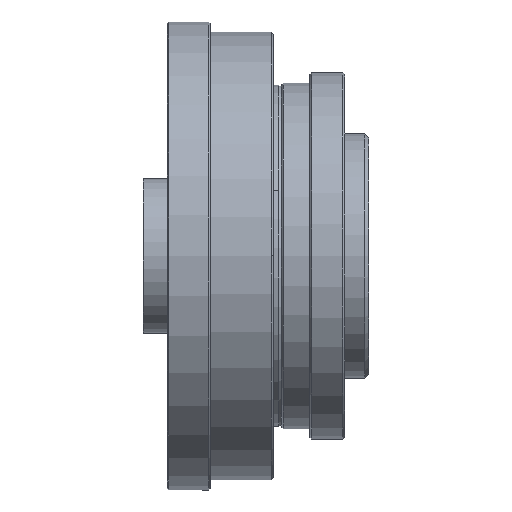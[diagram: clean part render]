
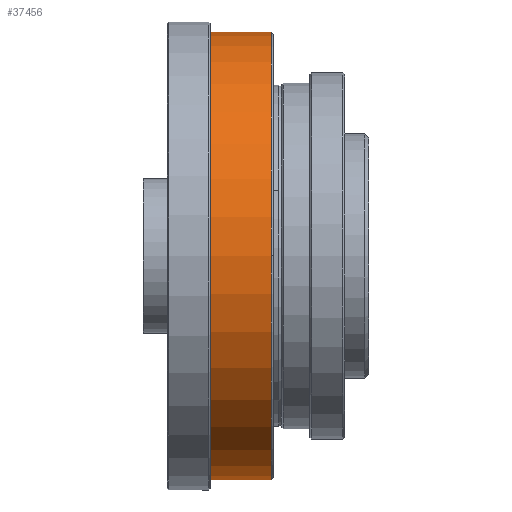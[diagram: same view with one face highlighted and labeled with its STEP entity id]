
A CAD part, top view. The second image highlights one B-rep face of the part: STEP entity #37456.
In plain terms, the highlighted cylindrical face has radius 55 mm (diameter 110 mm), a partial arc.
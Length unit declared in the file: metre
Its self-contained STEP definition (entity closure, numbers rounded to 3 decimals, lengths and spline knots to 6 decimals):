
#1115 = DIRECTION ( 'NONE',  ( -1., 0., 0. ) ) ;
#3302 = VERTEX_POINT ( 'NONE', #19163 ) ;
#4617 = EDGE_CURVE ( 'NONE', #18884, #19823, #39296, .T. ) ;
#4662 = CARTESIAN_POINT ( 'NONE',  ( 0.0138, 0., 0. ) ) ;
#6164 = DIRECTION ( 'NONE',  ( 0., -1., 0. ) ) ;
#6730 = DIRECTION ( 'NONE',  ( -1., 0., 0. ) ) ;
#6996 = CARTESIAN_POINT ( 'NONE',  ( 0.0138, 0.055, 0. ) ) ;
#7225 = EDGE_CURVE ( 'NONE', #3302, #24416, #45071, .T. ) ;
#7722 = EDGE_LOOP ( 'NONE', ( #21858, #67471, #31378, #17925, #64343, #24565 ) ) ;
#8563 = CYLINDRICAL_SURFACE ( 'NONE', #27196, 0.055 ) ;
#9703 = CARTESIAN_POINT ( 'NONE',  ( 0.0138, 0., 0. ) ) ;
#10667 = CARTESIAN_POINT ( 'NONE',  ( 0.0315, -0.055, 0. ) ) ;
#13833 = AXIS2_PLACEMENT_3D ( 'NONE', #4662, #29817, #56176 ) ;
#13863 = VECTOR ( 'NONE', #28115, 1. ) ;
#17925 = ORIENTED_EDGE ( 'NONE', *, *, #66236, .T. ) ;
#18133 = EDGE_CURVE ( 'NONE', #44373, #29894, #62608, .T. ) ;
#18582 = AXIS2_PLACEMENT_3D ( 'NONE', #9703, #53407, #66611 ) ;
#18884 = VERTEX_POINT ( 'NONE', #10667 ) ;
#19163 = CARTESIAN_POINT ( 'NONE',  ( 0.0315, 0., 0.055 ) ) ;
#19823 = VERTEX_POINT ( 'NONE', #72553 ) ;
#20017 = AXIS2_PLACEMENT_3D ( 'NONE', #20362, #64521, #46786 ) ;
#20080 = CARTESIAN_POINT ( 'NONE',  ( 0.008033, 0., 0. ) ) ;
#20362 = CARTESIAN_POINT ( 'NONE',  ( 0.0315, 0., 0. ) ) ;
#20535 = CARTESIAN_POINT ( 'NONE',  ( 0.0315, 0.055, 0. ) ) ;
#21858 = ORIENTED_EDGE ( 'NONE', *, *, #7225, .T. ) ;
#24416 = VERTEX_POINT ( 'NONE', #20535 ) ;
#24565 = ORIENTED_EDGE ( 'NONE', *, *, #48791, .T. ) ;
#27196 = AXIS2_PLACEMENT_3D ( 'NONE', #20080, #1115, #57610 ) ;
#28115 = DIRECTION ( 'NONE',  ( -1., 0., 0. ) ) ;
#29817 = DIRECTION ( 'NONE',  ( 1., 0., 0. ) ) ;
#29894 = VERTEX_POINT ( 'NONE', #40086 ) ;
#31378 = ORIENTED_EDGE ( 'NONE', *, *, #18133, .T. ) ;
#32468 = FACE_OUTER_BOUND ( 'NONE', #7722, .T. ) ;
#33495 = LINE ( 'NONE', #45458, #13863 ) ;
#33765 = CIRCLE ( 'NONE', #79903, 0.055 ) ;
#35509 = EDGE_CURVE ( 'NONE', #24416, #44373, #33495, .T. ) ;
#37456 = ADVANCED_FACE ( 'NONE', ( #32468 ), #8563, .T. ) ;
#38494 = CARTESIAN_POINT ( 'NONE',  ( 0.008033, -0.055, 0. ) ) ;
#39296 = LINE ( 'NONE', #38494, #56654 ) ;
#40086 = CARTESIAN_POINT ( 'NONE',  ( 0.0138, 0., 0.055 ) ) ;
#44373 = VERTEX_POINT ( 'NONE', #6996 ) ;
#45071 = CIRCLE ( 'NONE', #20017, 0.055 ) ;
#45458 = CARTESIAN_POINT ( 'NONE',  ( 0.008033, 0.055, 0. ) ) ;
#46786 = DIRECTION ( 'NONE',  ( 0., -1., 0. ) ) ;
#48791 = EDGE_CURVE ( 'NONE', #18884, #3302, #33765, .T. ) ;
#53407 = DIRECTION ( 'NONE',  ( 1., 0., 0. ) ) ;
#56176 = DIRECTION ( 'NONE',  ( 0., -1., 0. ) ) ;
#56654 = VECTOR ( 'NONE', #6730, 1. ) ;
#56788 = CIRCLE ( 'NONE', #18582, 0.055 ) ;
#57610 = DIRECTION ( 'NONE',  ( 0., -1., 0. ) ) ;
#62608 = CIRCLE ( 'NONE', #13833, 0.055 ) ;
#63890 = DIRECTION ( 'NONE',  ( -1., 0., 0. ) ) ;
#64343 = ORIENTED_EDGE ( 'NONE', *, *, #4617, .F. ) ;
#64521 = DIRECTION ( 'NONE',  ( -1., 0., 0. ) ) ;
#66236 = EDGE_CURVE ( 'NONE', #29894, #19823, #56788, .T. ) ;
#66611 = DIRECTION ( 'NONE',  ( 0., -1., 0. ) ) ;
#67471 = ORIENTED_EDGE ( 'NONE', *, *, #35509, .T. ) ;
#72553 = CARTESIAN_POINT ( 'NONE',  ( 0.0138, -0.055, 0. ) ) ;
#76665 = CARTESIAN_POINT ( 'NONE',  ( 0.0315, 0., 0. ) ) ;
#79903 = AXIS2_PLACEMENT_3D ( 'NONE', #76665, #63890, #6164 ) ;
